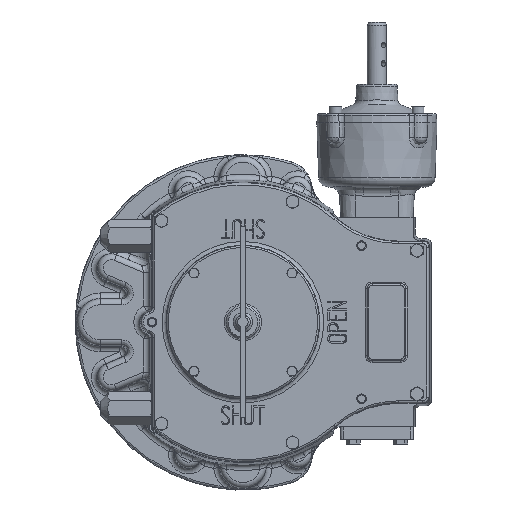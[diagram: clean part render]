
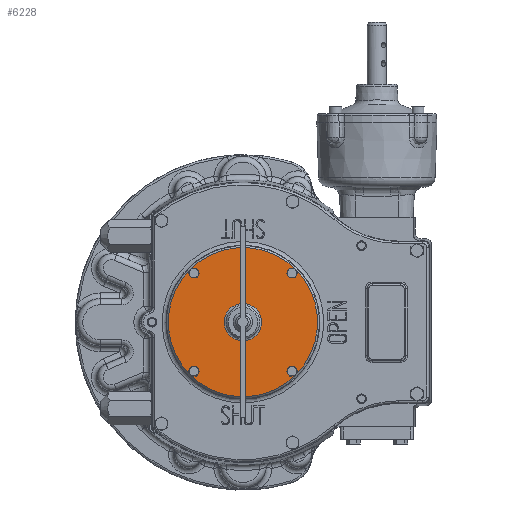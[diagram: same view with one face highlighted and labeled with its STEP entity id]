
A CAD part, top view. The second image highlights one B-rep face of the part: STEP entity #6228.
In plain terms, the highlighted planar face has unit normal (0, 0, 1).
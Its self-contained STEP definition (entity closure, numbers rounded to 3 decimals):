
#6228 = ADVANCED_FACE( '', ( #13509, #13510, #13511, #13512, #13513, #13514 ), #13515, .F. );
#13509 = FACE_BOUND( '', #42808, .T. );
#13510 = FACE_BOUND( '', #42809, .T. );
#13511 = FACE_BOUND( '', #42810, .T. );
#13512 = FACE_BOUND( '', #42811, .T. );
#13513 = FACE_BOUND( '', #42812, .T. );
#13514 = FACE_OUTER_BOUND( '', #42813, .T. );
#13515 = PLANE( '', #42814 );
#42808 = EDGE_LOOP( '', ( #68573 ) );
#42809 = EDGE_LOOP( '', ( #68574 ) );
#42810 = EDGE_LOOP( '', ( #68575 ) );
#42811 = EDGE_LOOP( '', ( #68576 ) );
#42812 = EDGE_LOOP( '', ( #68577 ) );
#42813 = EDGE_LOOP( '', ( #68578 ) );
#42814 = AXIS2_PLACEMENT_3D( '', #68579, #68580, #68581 );
#68573 = ORIENTED_EDGE( '', *, *, #81805, .T. );
#68574 = ORIENTED_EDGE( '', *, *, #80443, .T. );
#68575 = ORIENTED_EDGE( '', *, *, #80061, .T. );
#68576 = ORIENTED_EDGE( '', *, *, #78434, .T. );
#68577 = ORIENTED_EDGE( '', *, *, #81806, .T. );
#68578 = ORIENTED_EDGE( '', *, *, #75016, .T. );
#68579 = CARTESIAN_POINT( '', ( 56.569, 56.569, 145. ) );
#68580 = DIRECTION( '', ( 0., 0., -1. ) );
#68581 = DIRECTION( '', ( -0.707, 0.707, 0. ) );
#75016 = EDGE_CURVE( '', #83779, #83779, #83780, .F. );
#78434 = EDGE_CURVE( '', #89382, #89382, #89383, .T. );
#80061 = EDGE_CURVE( '', #91731, #91731, #91732, .T. );
#80443 = EDGE_CURVE( '', #92236, #92236, #92237, .T. );
#81805 = EDGE_CURVE( '', #93908, #93908, #93909, .T. );
#81806 = EDGE_CURVE( '', #93910, #93910, #93911, .T. );
#83779 = VERTEX_POINT( '', #97446 );
#83780 = CIRCLE( '', #97447, 78. );
#89382 = VERTEX_POINT( '', #114827 );
#89383 = CIRCLE( '', #114828, 5. );
#91731 = VERTEX_POINT( '', #121108 );
#91732 = CIRCLE( '', #121109, 5. );
#92236 = VERTEX_POINT( '', #123221 );
#92237 = CIRCLE( '', #123222, 5. );
#93908 = VERTEX_POINT( '', #127591 );
#93909 = CIRCLE( '', #127592, 5. );
#93910 = VERTEX_POINT( '', #127593 );
#93911 = CIRCLE( '', #127594, 19.5 );
#97446 = CARTESIAN_POINT( '', ( -55.154, 55.154, 145. ) );
#97447 = AXIS2_PLACEMENT_3D( '', #131082, #131083, #131084 );
#114827 = CARTESIAN_POINT( '', ( 46.265, -51.265, 145. ) );
#114828 = AXIS2_PLACEMENT_3D( '', #135180, #135181, #135182 );
#121108 = CARTESIAN_POINT( '', ( -56.265, 51.265, 145. ) );
#121109 = AXIS2_PLACEMENT_3D( '', #137224, #137225, #137226 );
#123221 = CARTESIAN_POINT( '', ( 46.265, 51.265, 145. ) );
#123222 = AXIS2_PLACEMENT_3D( '', #137661, #137662, #137663 );
#127591 = CARTESIAN_POINT( '', ( -56.265, -51.265, 145. ) );
#127592 = AXIS2_PLACEMENT_3D( '', #139001, #139002, #139003 );
#127593 = CARTESIAN_POINT( '', ( -13.789, 13.789, 145. ) );
#127594 = AXIS2_PLACEMENT_3D( '', #139004, #139005, #139006 );
#131082 = CARTESIAN_POINT( '', ( 0., 0., 145. ) );
#131083 = DIRECTION( '', ( 0., 0., -1. ) );
#131084 = DIRECTION( '', ( -0.707, 0.707, 0. ) );
#135180 = CARTESIAN_POINT( '', ( 51.265, -51.265, 145. ) );
#135181 = DIRECTION( '', ( 0., 0., -1. ) );
#135182 = DIRECTION( '', ( -1., 0., 0. ) );
#137224 = CARTESIAN_POINT( '', ( -51.265, 51.265, 145. ) );
#137225 = DIRECTION( '', ( 0., 0., -1. ) );
#137226 = DIRECTION( '', ( -1., 0., 0. ) );
#137661 = CARTESIAN_POINT( '', ( 51.265, 51.265, 145. ) );
#137662 = DIRECTION( '', ( 0., 0., -1. ) );
#137663 = DIRECTION( '', ( -1., 0., 0. ) );
#139001 = CARTESIAN_POINT( '', ( -51.265, -51.265, 145. ) );
#139002 = DIRECTION( '', ( 0., 0., -1. ) );
#139003 = DIRECTION( '', ( -1., 0., 0. ) );
#139004 = CARTESIAN_POINT( '', ( 0., 0., 145. ) );
#139005 = DIRECTION( '', ( 0., 0., -1. ) );
#139006 = DIRECTION( '', ( -0.707, 0.707, 0. ) );
